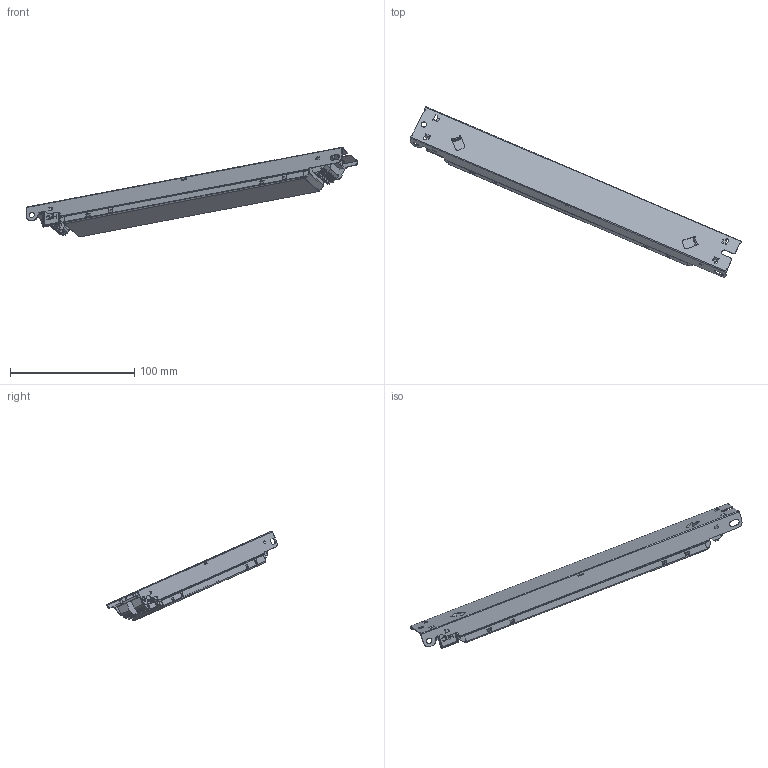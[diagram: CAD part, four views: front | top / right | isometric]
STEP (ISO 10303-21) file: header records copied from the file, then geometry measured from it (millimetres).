
FILE_DESCRIPTION (( 'STEP AP203' ), '1' );
FILE_NAME ('LL25_35SE-DA.STEP', '2019-08-20T06:58:40', ( '' ), ( '' ), 'SwSTEP 2.0', 'SolidWorks 2014', '' );
FILE_SCHEMA (( 'CONFIG_CONTROL_DESIGN' ));
Length unit declared in the file: millimetre
Products named in the file (1): LL25_35SE-DA
Bounding box: 266.45 x 136.88 x 72 mm (x, y, z)
Volume: 30201.4 mm3; surface area: 74174.9 mm2
Topology: 8 solids, 8 shells, 1407 faces, 3719 edges, 2363 vertices
Faces by surface type: plane 904, cylinder 395, bspline 39, torus 35, cone 20, sphere 14
Entity records: 44127 total; most frequent: CARTESIAN_POINT 9333, ORIENTED_EDGE 7428, DIRECTION 6935, EDGE_CURVE 3714, LINE 2611, VECTOR 2611, VERTEX_POINT 2360, AXIS2_PLACEMENT_3D 2162
